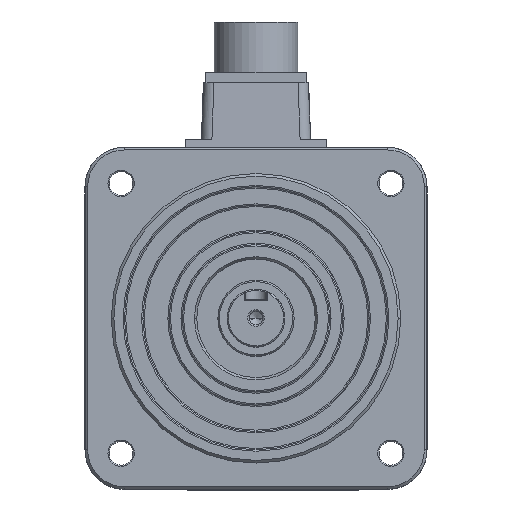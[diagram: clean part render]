
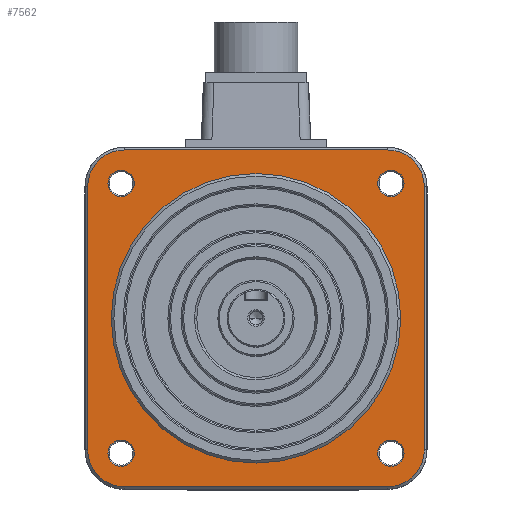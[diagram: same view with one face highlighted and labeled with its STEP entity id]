
A CAD part, top view. The second image highlights one B-rep face of the part: STEP entity #7562.
In plain terms, the highlighted planar face has unit normal (0, 0, 1).
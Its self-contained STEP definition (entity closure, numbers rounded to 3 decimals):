
#98=CARTESIAN_POINT('',(50.,50.,25.));
#99=DIRECTION('',(0.,0.,-1.));
#100=DIRECTION('',(0.,1.,0.));
#101=AXIS2_PLACEMENT_3D('',#98,#99,#100);
#103=CARTESIAN_POINT('',(50.,-50.,25.));
#104=DIRECTION('',(0.,0.,-1.));
#105=DIRECTION('',(1.,0.,0.));
#106=AXIS2_PLACEMENT_3D('',#103,#104,#105);
#108=CARTESIAN_POINT('',(-50.,-50.,25.));
#109=DIRECTION('',(0.,0.,-1.));
#110=DIRECTION('',(0.,-1.,0.));
#111=AXIS2_PLACEMENT_3D('',#108,#109,#110);
#113=CARTESIAN_POINT('',(-50.,50.,25.));
#114=DIRECTION('',(0.,0.,-1.));
#115=DIRECTION('',(-1.,0.,0.));
#116=AXIS2_PLACEMENT_3D('',#113,#114,#115);
#118=CARTESIAN_POINT('',(0.,0.,25.));
#119=DIRECTION('',(0.,0.,1.));
#120=DIRECTION('',(-1.,0.,0.));
#121=AXIS2_PLACEMENT_3D('',#118,#119,#120);
#123=CARTESIAN_POINT('',(0.,0.,25.));
#124=DIRECTION('',(0.,0.,1.));
#125=DIRECTION('',(1.,0.,0.));
#126=AXIS2_PLACEMENT_3D('',#123,#124,#125);
#128=CARTESIAN_POINT('',(-51.265,51.265,25.));
#129=DIRECTION('',(0.,0.,1.));
#130=DIRECTION('',(1.,0.,0.));
#131=AXIS2_PLACEMENT_3D('',#128,#129,#130);
#133=CARTESIAN_POINT('',(-51.265,51.265,25.));
#134=DIRECTION('',(0.,0.,1.));
#135=DIRECTION('',(-1.,0.,0.));
#136=AXIS2_PLACEMENT_3D('',#133,#134,#135);
#138=CARTESIAN_POINT('',(-51.265,-51.265,25.));
#139=DIRECTION('',(0.,0.,1.));
#140=DIRECTION('',(1.,0.,0.));
#141=AXIS2_PLACEMENT_3D('',#138,#139,#140);
#143=CARTESIAN_POINT('',(-51.265,-51.265,25.));
#144=DIRECTION('',(0.,0.,1.));
#145=DIRECTION('',(-1.,0.,0.));
#146=AXIS2_PLACEMENT_3D('',#143,#144,#145);
#148=CARTESIAN_POINT('',(51.265,-51.265,25.));
#149=DIRECTION('',(0.,0.,1.));
#150=DIRECTION('',(1.,0.,0.));
#151=AXIS2_PLACEMENT_3D('',#148,#149,#150);
#153=CARTESIAN_POINT('',(51.265,-51.265,25.));
#154=DIRECTION('',(0.,0.,1.));
#155=DIRECTION('',(-1.,0.,0.));
#156=AXIS2_PLACEMENT_3D('',#153,#154,#155);
#158=CARTESIAN_POINT('',(51.265,51.265,25.));
#159=DIRECTION('',(0.,0.,1.));
#160=DIRECTION('',(1.,0.,0.));
#161=AXIS2_PLACEMENT_3D('',#158,#159,#160);
#163=CARTESIAN_POINT('',(51.265,51.265,25.));
#164=DIRECTION('',(0.,0.,1.));
#165=DIRECTION('',(-1.,0.,0.));
#166=AXIS2_PLACEMENT_3D('',#163,#164,#165);
#350=DIRECTION('',(-1.,0.,0.));
#351=VECTOR('',#350,100.);
#352=CARTESIAN_POINT('',(50.,63.969,25.));
#353=LINE('',#352,#351);
#502=DIRECTION('',(0.,-1.,0.));
#503=VECTOR('',#502,100.);
#504=CARTESIAN_POINT('',(-63.969,50.,25.));
#505=LINE('',#504,#503);
#700=DIRECTION('',(1.,0.,0.));
#701=VECTOR('',#700,100.);
#702=CARTESIAN_POINT('',(-50.,-63.969,25.));
#703=LINE('',#702,#701);
#906=DIRECTION('',(0.,1.,0.));
#907=VECTOR('',#906,100.);
#908=CARTESIAN_POINT('',(63.969,-50.,25.));
#909=LINE('',#908,#907);
#5907=CARTESIAN_POINT('',(55.,0.,25.));
#5908=VERTEX_POINT('',#5907);
#5909=CARTESIAN_POINT('',(-55.,0.,25.));
#5910=VERTEX_POINT('',#5909);
#5911=CARTESIAN_POINT('',(50.,63.969,25.));
#5912=CARTESIAN_POINT('',(63.969,50.,25.));
#5913=VERTEX_POINT('',#5911);
#5914=VERTEX_POINT('',#5912);
#5915=CARTESIAN_POINT('',(63.969,-50.,25.));
#5916=CARTESIAN_POINT('',(50.,-63.969,25.));
#5917=VERTEX_POINT('',#5915);
#5918=VERTEX_POINT('',#5916);
#5919=CARTESIAN_POINT('',(-50.,-63.969,25.));
#5920=CARTESIAN_POINT('',(-63.969,-50.,25.));
#5921=VERTEX_POINT('',#5919);
#5922=VERTEX_POINT('',#5920);
#5923=CARTESIAN_POINT('',(-63.969,50.,25.));
#5924=CARTESIAN_POINT('',(-50.,63.969,25.));
#5925=VERTEX_POINT('',#5923);
#5926=VERTEX_POINT('',#5924);
#5927=CARTESIAN_POINT('',(-46.265,51.265,25.));
#5928=CARTESIAN_POINT('',(-56.265,51.265,25.));
#5929=VERTEX_POINT('',#5927);
#5930=VERTEX_POINT('',#5928);
#5931=CARTESIAN_POINT('',(-46.265,-51.265,25.));
#5932=CARTESIAN_POINT('',(-56.265,-51.265,25.));
#5933=VERTEX_POINT('',#5931);
#5934=VERTEX_POINT('',#5932);
#5935=CARTESIAN_POINT('',(56.265,-51.265,25.));
#5936=CARTESIAN_POINT('',(46.265,-51.265,25.));
#5937=VERTEX_POINT('',#5935);
#5938=VERTEX_POINT('',#5936);
#5939=CARTESIAN_POINT('',(56.265,51.265,25.));
#5940=CARTESIAN_POINT('',(46.265,51.265,25.));
#5941=VERTEX_POINT('',#5939);
#5942=VERTEX_POINT('',#5940);
#7511=CARTESIAN_POINT('',(0.,0.,25.));
#7512=DIRECTION('',(0.,0.,1.));
#7513=DIRECTION('',(1.,0.,0.));
#7514=AXIS2_PLACEMENT_3D('',#7511,#7512,#7513);
#7515=PLANE('',#7514);
#7517=ORIENTED_EDGE('',*,*,#7516,.T.);
#7519=ORIENTED_EDGE('',*,*,#7518,.F.);
#7521=ORIENTED_EDGE('',*,*,#7520,.T.);
#7523=ORIENTED_EDGE('',*,*,#7522,.F.);
#7525=ORIENTED_EDGE('',*,*,#7524,.T.);
#7527=ORIENTED_EDGE('',*,*,#7526,.F.);
#7529=ORIENTED_EDGE('',*,*,#7528,.T.);
#7531=ORIENTED_EDGE('',*,*,#7530,.F.);
#7532=EDGE_LOOP('',(#7517,#7519,#7521,#7523,#7525,#7527,#7529,#7531));
#7533=FACE_OUTER_BOUND('',#7532,.F.);
#7534=ORIENTED_EDGE('',*,*,#7504,.T.);
#7535=ORIENTED_EDGE('',*,*,#7493,.T.);
#7536=EDGE_LOOP('',(#7534,#7535));
#7537=FACE_BOUND('',#7536,.F.);
#7539=ORIENTED_EDGE('',*,*,#7538,.T.);
#7541=ORIENTED_EDGE('',*,*,#7540,.T.);
#7542=EDGE_LOOP('',(#7539,#7541));
#7543=FACE_BOUND('',#7542,.F.);
#7545=ORIENTED_EDGE('',*,*,#7544,.T.);
#7547=ORIENTED_EDGE('',*,*,#7546,.T.);
#7548=EDGE_LOOP('',(#7545,#7547));
#7549=FACE_BOUND('',#7548,.F.);
#7551=ORIENTED_EDGE('',*,*,#7550,.T.);
#7553=ORIENTED_EDGE('',*,*,#7552,.T.);
#7554=EDGE_LOOP('',(#7551,#7553));
#7555=FACE_BOUND('',#7554,.F.);
#7557=ORIENTED_EDGE('',*,*,#7556,.T.);
#7559=ORIENTED_EDGE('',*,*,#7558,.T.);
#7560=EDGE_LOOP('',(#7557,#7559));
#7561=FACE_BOUND('',#7560,.F.);
#102=CIRCLE('',#101,13.969);
#107=CIRCLE('',#106,13.969);
#112=CIRCLE('',#111,13.969);
#117=CIRCLE('',#116,13.969);
#122=CIRCLE('',#121,55.);
#127=CIRCLE('',#126,55.);
#132=CIRCLE('',#131,5.);
#137=CIRCLE('',#136,5.);
#142=CIRCLE('',#141,5.);
#147=CIRCLE('',#146,5.);
#152=CIRCLE('',#151,5.);
#157=CIRCLE('',#156,5.);
#162=CIRCLE('',#161,5.);
#167=CIRCLE('',#166,5.);
#7493=EDGE_CURVE('',#5908,#5910,#127,.T.);
#7504=EDGE_CURVE('',#5910,#5908,#122,.T.);
#7516=EDGE_CURVE('',#5913,#5914,#102,.T.);
#7518=EDGE_CURVE('',#5917,#5914,#909,.T.);
#7520=EDGE_CURVE('',#5917,#5918,#107,.T.);
#7522=EDGE_CURVE('',#5921,#5918,#703,.T.);
#7524=EDGE_CURVE('',#5921,#5922,#112,.T.);
#7526=EDGE_CURVE('',#5925,#5922,#505,.T.);
#7528=EDGE_CURVE('',#5925,#5926,#117,.T.);
#7530=EDGE_CURVE('',#5913,#5926,#353,.T.);
#7538=EDGE_CURVE('',#5929,#5930,#132,.T.);
#7540=EDGE_CURVE('',#5930,#5929,#137,.T.);
#7544=EDGE_CURVE('',#5933,#5934,#142,.T.);
#7546=EDGE_CURVE('',#5934,#5933,#147,.T.);
#7550=EDGE_CURVE('',#5937,#5938,#152,.T.);
#7552=EDGE_CURVE('',#5938,#5937,#157,.T.);
#7556=EDGE_CURVE('',#5941,#5942,#162,.T.);
#7558=EDGE_CURVE('',#5942,#5941,#167,.T.);
#7562=ADVANCED_FACE('',(#7533,#7537,#7543,#7549,#7555,#7561),#7515,.T.);
